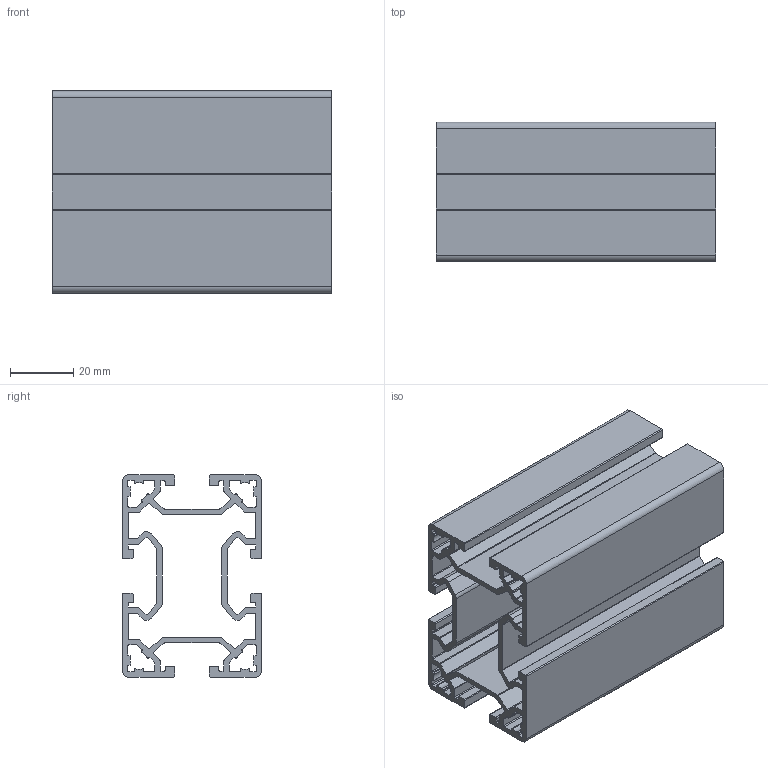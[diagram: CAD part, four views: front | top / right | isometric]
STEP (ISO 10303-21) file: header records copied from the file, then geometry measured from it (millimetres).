
FILE_DESCRIPTION (( 'STEP AP214' ), '1' );
FILE_NAME ('FBSB 44x64.step', '2017-04-05T08:04:31', ( '' ), ( '' ), 'SwSTEP 2.0', 'SolidWorks 2015', '' );
FILE_SCHEMA (( 'AUTOMOTIVE_DESIGN' ));
Length unit declared in the file: millimetre
Products named in the file (1): FBSB 44x64
Bounding box: 88.42 x 44 x 64 mm (x, y, z)
Volume: 61535.2 mm3; surface area: 67958.7 mm2
Topology: 1 solids, 1 shells, 354 faces, 1056 edges, 704 vertices
Faces by surface type: cylinder 196, plane 158
Entity records: 12086 total; most frequent: DIRECTION 2158, CARTESIAN_POINT 2115, ORIENTED_EDGE 2112, EDGE_CURVE 1056, AXIS2_PLACEMENT_3D 747, VERTEX_POINT 704, LINE 664, VECTOR 664
